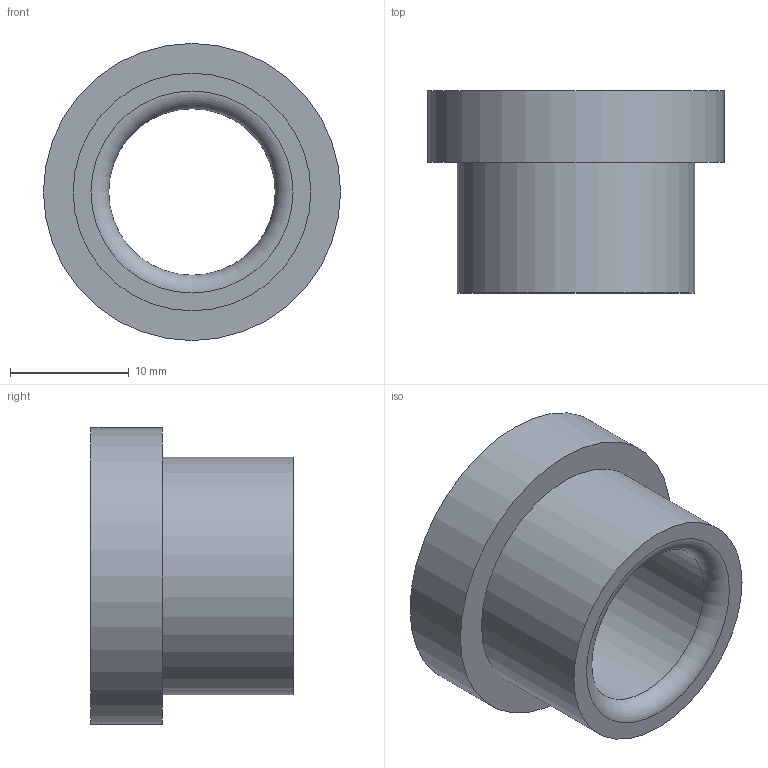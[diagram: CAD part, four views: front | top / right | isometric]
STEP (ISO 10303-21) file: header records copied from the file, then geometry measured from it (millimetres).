
FILE_DESCRIPTION(/* description */ ('STEP AP214'),/* implementation_level */ '2;1');
FILE_NAME(/* name */ '03_12_17903',/* time_stamp */ '2023-06-15T11:35:23+02:00',/* author */ ('License CC BY-ND 4.0'),/* organization */ ('CADENAS'),/* preprocessor_version */ 'ST-DEVELOPER v19.3',/* originating_system */ 'PARTsolutions',/* authorisation */ ' ');
FILE_SCHEMA (('AUTOMOTIVE_DESIGN {1 0 10303 214 3 1 1}'));
Length unit declared in the file: millimetre
Products named in the file (1): VA_Bushing_17903
Bounding box: 25 x 17 x 25 mm (x, y, z)
Volume: 3692.8 mm3; surface area: 2534.5 mm2
Topology: 1 solids, 1 shells, 10 faces, 16 edges, 10 vertices
Faces by surface type: cylinder 4, plane 4, torus 2
Full cylindrical faces by diameter (mm): 14 x1, 14.6 x1, 20 x1, 25 x1
Entity records: 302 total; most frequent: DIRECTION 42, CARTESIAN_POINT 31, AXIS2_PLACEMENT_3D 21, ORIENTED_EDGE 20, EDGE_LOOP 20, FACE_BOUND 20, EDGE_CURVE 10, VERTEX_POINT 10
